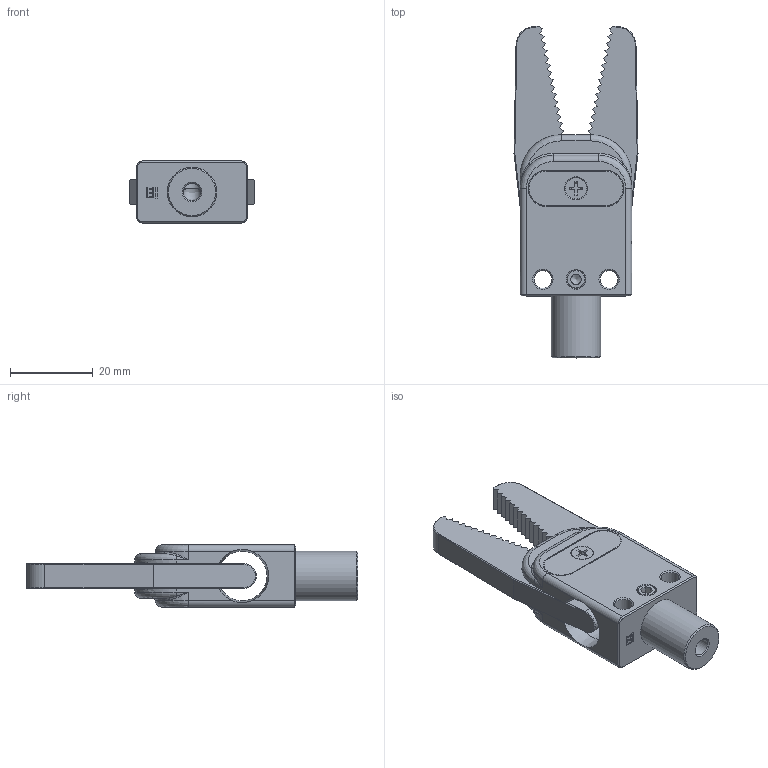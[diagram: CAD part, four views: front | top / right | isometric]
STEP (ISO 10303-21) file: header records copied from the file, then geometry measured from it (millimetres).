
FILE_DESCRIPTION(/* description */ (''),/* implementation_level */ '2;1');
FILE_NAME(/* name */ 'GR12B-12.stp',/* time_stamp */ '2023-03-08T11:51:36+08:00',/* author */ (''),/* organization */ (''),/* preprocessor_version */ 'ST-DEVELOPER v16',/* originating_system */ 'SIEMENS PLM Software NX 10.0',/* authorisation */ '');
FILE_SCHEMA (('AUTOMOTIVE_DESIGN { 1 0 10303 214 3 1 1 1 }'));
Length unit declared in the file: millimetre
Products named in the file (1): Admi115498B06iuf
Bounding box: 30 x 80.29 x 15 mm (x, y, z)
Volume: 15397 mm3; surface area: 8267.4 mm2
Topology: 1 solids, 12 shells, 390 faces, 970 edges, 606 vertices
Faces by surface type: plane 238, cone 63, cylinder 60, bspline 16, revolution 13
Full cylindrical faces by diameter (mm): 2.2 x2, 2.5 x1, 3 x3, 3.5 x1, 4.2 x2, 4.3 x2, 5.2 x1, 12 x2
Entity records: 14143 total; most frequent: CARTESIAN_POINT 2496, ORIENTED_EDGE 1810, DIRECTION 1807, EDGE_CURVE 905, LINE 610, VECTOR 610, AXIS2_PLACEMENT_3D 592, VERTEX_POINT 585
